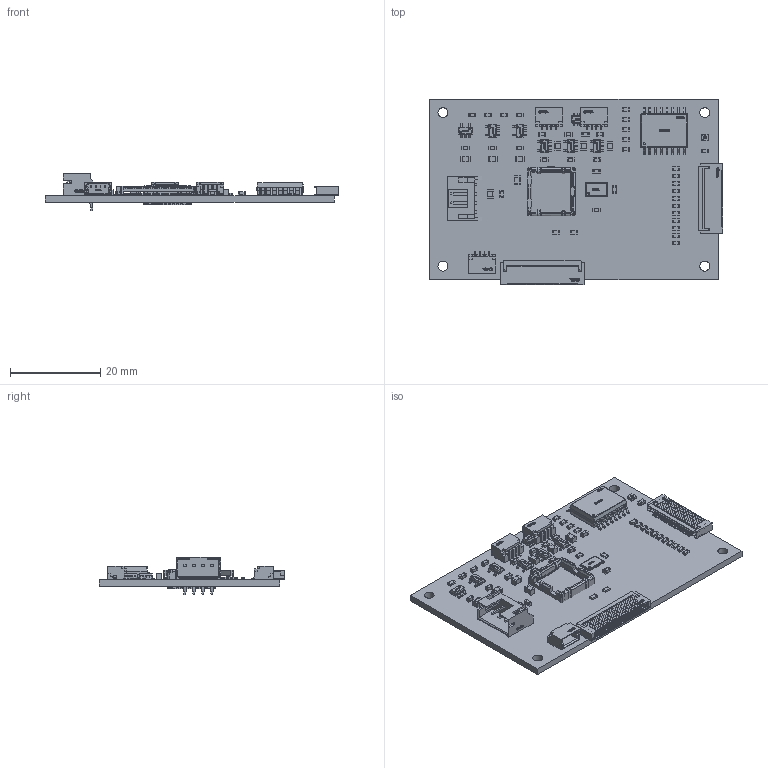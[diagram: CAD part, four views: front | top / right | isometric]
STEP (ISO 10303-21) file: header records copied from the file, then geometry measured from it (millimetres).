
FILE_DESCRIPTION(('KiCad electronic assembly'),'2;1');
FILE_NAME('pairo-head.step','2026-11-16T18:10:15',('Pcbnew'),('Kicad'), 'Open CASCADE STEP processor 7.9','KiCad to STEP converter','Unknown' );
FILE_SCHEMA(('AUTOMOTIVE_DESIGN { 1 0 10303 214 1 1 1 1 }'));
Length unit declared in the file: millimetre
Products named in the file (28): pairo-head 1; C_0603_1608Metric; R_0603_1608Metric; C_0805_2012Metric; SOT-23-6_L2.9-W1.6-H1.5-LS2.8-P0.95; SOT-23-5_L2.9-W1.6-H1.1-LS2.8-P0.95; FPC-SMD_24P-P0.50_FPC-05FB-24PH20; CONN-SMD_SR1.00-WS-4P; DFN-4_L1.5-W1.5-P0.8; SOIC-16_L10.3-W7.5-H2.7-LS10.3-P1.27; CONN-TH_4P-P2.00_S4B-PH-K-S-LF-SN; FPC-SMD_30P-P0.50_FPC-05FB-30PH20; CONN-SMD_1050281001; OSC-SMD_4P-L5.0-W3.2-BL_SIT8103AI; Pairo-Pod_PCB
Assembly tree (76 placements, depth 3):
  pairo-head 1
    C_0603_1608Metric  x16
      C_0603_1608Metric
    R_0603_1608Metric  x21
      R_0603_1608Metric
    C_0805_2012Metric  x8
      C_0805_2012Metric
    SOT-23-6_L2.9-W1.6-H1.5-LS2.8-P0.95
      SOT-23-6_L2.9-W1.6-H1.5-LS2.8-P0.95
    SOT-23-5_L2.9-W1.6-H1.1-LS2.8-P0.95  x6
      SOT-23-5_L2.9-W1.6-H1.1-LS2.8-P0.95
    FPC-SMD_24P-P0.50_FPC-05FB-24PH20
      FPC-SMD_24P-P0.50_FPC-05FB-24PH20
    CONN-SMD_SR1.00-WS-4P  x3
      CONN-SMD_SR1.00-WS-4P
    DFN-4_L1.5-W1.5-P0.8
      DFN-4_L1.5-W1.5-P0.8
    SOIC-16_L10.3-W7.5-H2.7-LS10.3-P1.27
      SOIC-16_L10.3-W7.5-H2.7-LS10.3-P1.27
    CONN-TH_4P-P2.00_S4B-PH-K-S-LF-SN
      CONN-TH_4P-P2.00_S4B-PH-K-S-LF-SN
    FPC-SMD_30P-P0.50_FPC-05FB-30PH20
      FPC-SMD_30P-P0.50_FPC-05FB-30PH20
    CONN-SMD_1050281001
      CONN-SMD_1050281001
    OSC-SMD_4P-L5.0-W3.2-BL_SIT8103AI
      OSC-SMD_4P-L5.0-W3.2-BL_SIT8103AI
    Pairo-Pod_PCB
Bounding box: 64.95 x 41.15 x 8.2 mm (x, y, z)
Volume: 4533.4 mm3; surface area: 9376.4 mm2
Topology: 371 solids, 385 shells, 13451 faces, 34596 edges, 22085 vertices
Faces by surface type: plane 8231, bspline 2238, cylinder 2208, torus 448, sphere 324, cone 2
Full cylindrical faces by diameter (mm): 1 x4, 2.2 x4
Entity records: 322711 total; most frequent: CARTESIAN_POINT 82638, ORIENTED_EDGE 41848, DIRECTION 30575, EDGE_CURVE 20932, VERTEX_POINT 13490, LINE 12769, VECTOR 12769, AXIS2_PLACEMENT_3D 8903
